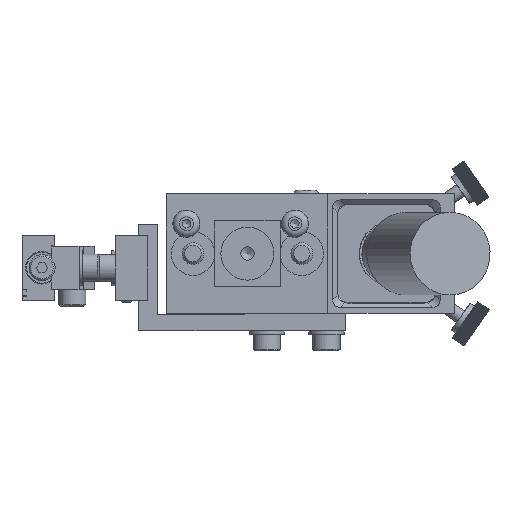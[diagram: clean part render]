
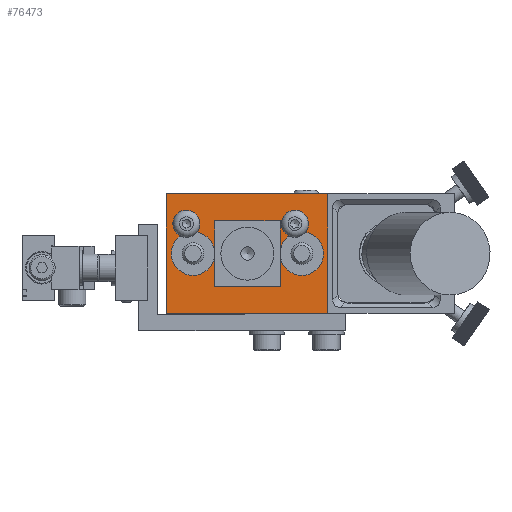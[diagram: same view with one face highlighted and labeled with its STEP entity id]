
A CAD part, left-side view. The second image highlights one B-rep face of the part: STEP entity #76473.
In plain terms, the highlighted planar face has unit normal (-1, 0, 0).
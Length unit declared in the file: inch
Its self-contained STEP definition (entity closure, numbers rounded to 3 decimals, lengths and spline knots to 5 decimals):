
#172=CARTESIAN_POINT('',(-1.05642,0.32046,-0.8635));
#173=VERTEX_POINT('',#172);
#174=CARTESIAN_POINT('',(-1.05642,0.32046,-0.953));
#175=DIRECTION('',(1.0,0.0,0.0));
#176=DIRECTION('',(0.0,0.0,-1.0));
#177=AXIS2_PLACEMENT_3D('',#174,#175,#176);
#178=CIRCLE('',#177,0.0895);
#179=EDGE_CURVE('',#173,#173,#178,.T.);
#240=CARTESIAN_POINT('',(-1.05642,-0.20954,-0.3325));
#241=VERTEX_POINT('',#240);
#242=CARTESIAN_POINT('',(-1.05642,-0.20954,-0.422));
#243=DIRECTION('',(1.0,0.0,0.0));
#244=DIRECTION('',(0.0,0.0,-1.0));
#245=AXIS2_PLACEMENT_3D('',#242,#243,#244);
#246=CIRCLE('',#245,0.0895);
#247=EDGE_CURVE('',#241,#241,#246,.T.);
#30125=CARTESIAN_POINT('',(-1.05642,0.99046,0.0));
#30126=VERTEX_POINT('',#30125);
#30133=CARTESIAN_POINT('',(-1.05642,-0.86954,0.0));
#30134=VERTEX_POINT('',#30133);
#30135=CARTESIAN_POINT('',(-1.05642,0.99046,0.0));
#30136=DIRECTION('',(0.0,-1.0,0.0));
#30137=VECTOR('',#30136,1.86);
#30138=LINE('',#30135,#30137);
#30139=EDGE_CURVE('',#30126,#30134,#30138,.T.);
#49931=CARTESIAN_POINT('',(-1.05642,-0.86954,-1.375));
#49932=VERTEX_POINT('',#49931);
#49939=CARTESIAN_POINT('',(-1.05642,0.99046,-1.375));
#49940=VERTEX_POINT('',#49939);
#49941=CARTESIAN_POINT('',(-1.05642,0.99046,-1.375));
#49942=DIRECTION('',(0.0,-1.0,0.0));
#49943=VECTOR('',#49942,1.86);
#49944=LINE('',#49941,#49943);
#49945=EDGE_CURVE('',#49940,#49932,#49944,.T.);
#75776=CARTESIAN_POINT('',(-1.05642,-0.55454,-0.344));
#75777=VERTEX_POINT('',#75776);
#75778=CARTESIAN_POINT('',(-1.05642,-0.48954,-0.344));
#75779=DIRECTION('',(1.0,0.0,0.0));
#75780=DIRECTION('',(0.0,-1.0,0.0));
#75781=AXIS2_PLACEMENT_3D('',#75778,#75779,#75780);
#75782=CIRCLE('',#75781,0.065);
#75783=EDGE_CURVE('',#75777,#75777,#75782,.T.);
#75813=CARTESIAN_POINT('',(-1.05642,0.69146,-0.344));
#75814=VERTEX_POINT('',#75813);
#75815=CARTESIAN_POINT('',(-1.05642,0.75646,-0.344));
#75816=DIRECTION('',(1.0,0.0,0.0));
#75817=DIRECTION('',(0.0,-1.0,0.0));
#75818=AXIS2_PLACEMENT_3D('',#75815,#75816,#75817);
#75819=CIRCLE('',#75818,0.065);
#75820=EDGE_CURVE('',#75814,#75814,#75819,.T.);
#75878=CARTESIAN_POINT('',(-1.05642,-0.16429,-0.687));
#75879=VERTEX_POINT('',#75878);
#75880=CARTESIAN_POINT('',(-1.05642,0.05546,-0.687));
#75881=DIRECTION('',(1.0,0.0,0.0));
#75882=DIRECTION('',(0.0,-1.0,0.0));
#75883=AXIS2_PLACEMENT_3D('',#75880,#75881,#75882);
#75884=CIRCLE('',#75883,0.21975);
#75885=EDGE_CURVE('',#75879,#75879,#75884,.T.);
#76060=CARTESIAN_POINT('',(-1.05642,-0.81947,-0.687));
#76061=VERTEX_POINT('',#76060);
#76062=CARTESIAN_POINT('',(-1.05642,-0.56954,-0.687));
#76063=DIRECTION('',(1.0,0.0,0.0));
#76064=DIRECTION('',(0.0,-1.0,0.0));
#76065=AXIS2_PLACEMENT_3D('',#76062,#76063,#76064);
#76066=CIRCLE('',#76065,0.24993);
#76067=EDGE_CURVE('',#76061,#76061,#76066,.T.);
#76107=CARTESIAN_POINT('',(-1.05642,0.43053,-0.687));
#76108=VERTEX_POINT('',#76107);
#76109=CARTESIAN_POINT('',(-1.05642,0.68046,-0.687));
#76110=DIRECTION('',(1.0,0.0,0.0));
#76111=DIRECTION('',(0.0,-1.0,0.0));
#76112=AXIS2_PLACEMENT_3D('',#76109,#76110,#76111);
#76113=CIRCLE('',#76112,0.24993);
#76114=EDGE_CURVE('',#76108,#76108,#76113,.T.);
#76354=CARTESIAN_POINT('',(-1.05642,-0.86954,0.0));
#76355=DIRECTION('',(0.0,0.0,-1.0));
#76356=VECTOR('',#76355,1.375);
#76357=LINE('',#76354,#76356);
#76358=EDGE_CURVE('',#30134,#49932,#76357,.T.);
#76430=CARTESIAN_POINT('',(-1.05642,0.99046,0.0));
#76431=DIRECTION('',(0.0,0.0,-1.0));
#76432=VECTOR('',#76431,1.375);
#76433=LINE('',#76430,#76432);
#76434=EDGE_CURVE('',#30126,#49940,#76433,.T.);
#76441=CARTESIAN_POINT('',(-1.05642,0.99046,0.0));
#76442=DIRECTION('',(-1.0,0.0,0.0));
#76443=DIRECTION('',(0.0,0.0,1.0));
#76444=AXIS2_PLACEMENT_3D('',#76441,#76442,#76443);
#76445=PLANE('',#76444);
#76446=ORIENTED_EDGE('',*,*,#49945,.T.);
#76447=ORIENTED_EDGE('',*,*,#76358,.F.);
#76448=ORIENTED_EDGE('',*,*,#30139,.F.);
#76449=ORIENTED_EDGE('',*,*,#76434,.T.);
#76450=EDGE_LOOP('',(#76446,#76447,#76448,#76449));
#76451=FACE_OUTER_BOUND('',#76450,.T.);
#76452=ORIENTED_EDGE('',*,*,#179,.T.);
#76453=EDGE_LOOP('',(#76452));
#76454=FACE_BOUND('',#76453,.T.);
#76455=ORIENTED_EDGE('',*,*,#247,.T.);
#76456=EDGE_LOOP('',(#76455));
#76457=FACE_BOUND('',#76456,.T.);
#76458=ORIENTED_EDGE('',*,*,#75783,.T.);
#76459=EDGE_LOOP('',(#76458));
#76460=FACE_BOUND('',#76459,.T.);
#76461=ORIENTED_EDGE('',*,*,#75820,.T.);
#76462=EDGE_LOOP('',(#76461));
#76463=FACE_BOUND('',#76462,.T.);
#76464=ORIENTED_EDGE('',*,*,#75885,.T.);
#76465=EDGE_LOOP('',(#76464));
#76466=FACE_BOUND('',#76465,.T.);
#76467=ORIENTED_EDGE('',*,*,#76067,.T.);
#76468=EDGE_LOOP('',(#76467));
#76469=FACE_BOUND('',#76468,.T.);
#76470=ORIENTED_EDGE('',*,*,#76114,.T.);
#76471=EDGE_LOOP('',(#76470));
#76472=FACE_BOUND('',#76471,.T.);
#76473=ADVANCED_FACE('',(#76451,#76454,#76457,#76460,#76463,#76466,#76469,#76472),#76445,.T.);
